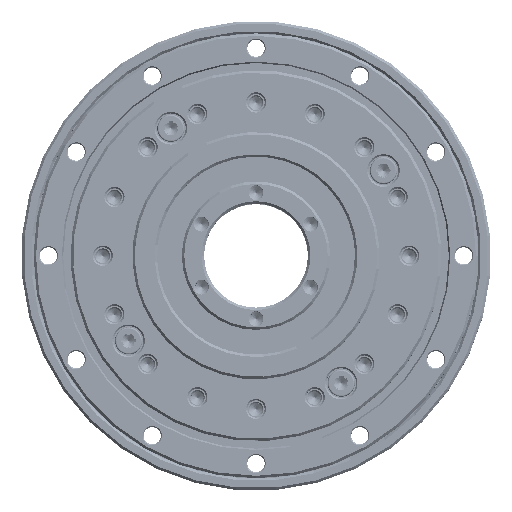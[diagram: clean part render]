
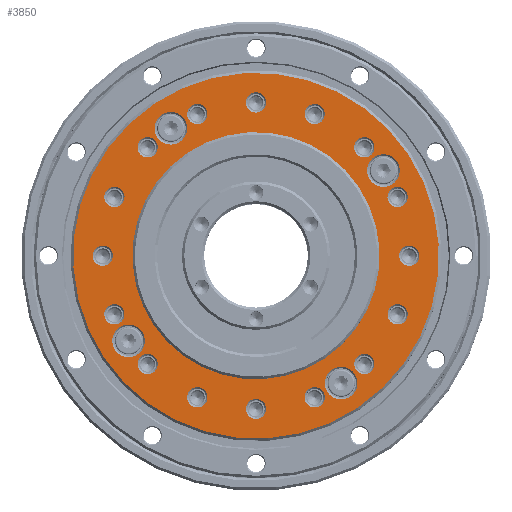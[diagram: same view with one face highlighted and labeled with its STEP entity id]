
A CAD part, top view. The second image highlights one B-rep face of the part: STEP entity #3850.
In plain terms, the highlighted planar face has unit normal (0, 0, 1).
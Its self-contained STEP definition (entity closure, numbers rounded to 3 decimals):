
#3850=ADVANCED_FACE('',(#5472,#5473,#5474,#5475,#5476,#5477,#5478,#5479,
#5480,#5481,#5482,#5483,#5484,#5485,#5486,#5487,#5488,#5489,#5490,#5491,
#5492,#5493),#4255,.T.);
#4255=PLANE('',#16259);
#5472=FACE_BOUND('',#7297,.T.);
#5473=FACE_BOUND('',#7298,.T.);
#5474=FACE_BOUND('',#7299,.T.);
#5475=FACE_BOUND('',#7300,.T.);
#5476=FACE_BOUND('',#7301,.T.);
#5477=FACE_BOUND('',#7302,.T.);
#5478=FACE_BOUND('',#7303,.T.);
#5479=FACE_BOUND('',#7304,.T.);
#5480=FACE_BOUND('',#7305,.T.);
#5481=FACE_BOUND('',#7306,.T.);
#5482=FACE_BOUND('',#7307,.T.);
#5483=FACE_BOUND('',#7308,.T.);
#5484=FACE_BOUND('',#7309,.T.);
#5485=FACE_BOUND('',#7310,.T.);
#5486=FACE_BOUND('',#7311,.T.);
#5487=FACE_BOUND('',#7312,.T.);
#5488=FACE_BOUND('',#7313,.T.);
#5489=FACE_BOUND('',#7314,.T.);
#5490=FACE_BOUND('',#7315,.T.);
#5491=FACE_BOUND('',#7316,.T.);
#5492=FACE_BOUND('',#7317,.T.);
#5493=FACE_BOUND('',#7318,.T.);
#7297=EDGE_LOOP('',(#10163));
#7298=EDGE_LOOP('',(#10164));
#7299=EDGE_LOOP('',(#10165));
#7300=EDGE_LOOP('',(#10166));
#7301=EDGE_LOOP('',(#10167));
#7302=EDGE_LOOP('',(#10168));
#7303=EDGE_LOOP('',(#10169));
#7304=EDGE_LOOP('',(#10170));
#7305=EDGE_LOOP('',(#10171));
#7306=EDGE_LOOP('',(#10172));
#7307=EDGE_LOOP('',(#10173));
#7308=EDGE_LOOP('',(#10174));
#7309=EDGE_LOOP('',(#10175));
#7310=EDGE_LOOP('',(#10176));
#7311=EDGE_LOOP('',(#10177));
#7312=EDGE_LOOP('',(#10178));
#7313=EDGE_LOOP('',(#10179));
#7314=EDGE_LOOP('',(#10180));
#7315=EDGE_LOOP('',(#10181));
#7316=EDGE_LOOP('',(#10182));
#7317=EDGE_LOOP('',(#10183));
#7318=EDGE_LOOP('',(#10184));
#10163=ORIENTED_EDGE('',*,*,#13299,.T.);
#10164=ORIENTED_EDGE('',*,*,#13300,.T.);
#10165=ORIENTED_EDGE('',*,*,#13301,.T.);
#10166=ORIENTED_EDGE('',*,*,#13302,.T.);
#10167=ORIENTED_EDGE('',*,*,#13303,.T.);
#10168=ORIENTED_EDGE('',*,*,#13304,.T.);
#10169=ORIENTED_EDGE('',*,*,#13305,.T.);
#10170=ORIENTED_EDGE('',*,*,#13306,.T.);
#10171=ORIENTED_EDGE('',*,*,#13307,.T.);
#10172=ORIENTED_EDGE('',*,*,#13308,.T.);
#10173=ORIENTED_EDGE('',*,*,#13309,.T.);
#10174=ORIENTED_EDGE('',*,*,#13310,.T.);
#10175=ORIENTED_EDGE('',*,*,#13311,.T.);
#10176=ORIENTED_EDGE('',*,*,#13312,.T.);
#10177=ORIENTED_EDGE('',*,*,#13313,.T.);
#10178=ORIENTED_EDGE('',*,*,#13314,.T.);
#10179=ORIENTED_EDGE('',*,*,#13315,.T.);
#10180=ORIENTED_EDGE('',*,*,#13316,.T.);
#10181=ORIENTED_EDGE('',*,*,#13317,.T.);
#10182=ORIENTED_EDGE('',*,*,#13318,.T.);
#10183=ORIENTED_EDGE('',*,*,#13319,.T.);
#10184=ORIENTED_EDGE('',*,*,#13320,.F.);
#11829=VERTEX_POINT('',#66681);
#11830=VERTEX_POINT('',#66683);
#11831=VERTEX_POINT('',#66685);
#11832=VERTEX_POINT('',#66687);
#11833=VERTEX_POINT('',#66689);
#11834=VERTEX_POINT('',#66691);
#11835=VERTEX_POINT('',#66693);
#11836=VERTEX_POINT('',#66695);
#11837=VERTEX_POINT('',#66697);
#11838=VERTEX_POINT('',#66699);
#11839=VERTEX_POINT('',#66701);
#11840=VERTEX_POINT('',#66703);
#11841=VERTEX_POINT('',#66705);
#11842=VERTEX_POINT('',#66707);
#11843=VERTEX_POINT('',#66709);
#11844=VERTEX_POINT('',#66711);
#11845=VERTEX_POINT('',#66713);
#11846=VERTEX_POINT('',#66715);
#11847=VERTEX_POINT('',#66717);
#11848=VERTEX_POINT('',#66719);
#11849=VERTEX_POINT('',#66721);
#11850=VERTEX_POINT('',#66723);
#13299=EDGE_CURVE('',#11829,#11829,#14432,.T.);
#13300=EDGE_CURVE('',#11830,#11830,#14433,.T.);
#13301=EDGE_CURVE('',#11831,#11831,#14434,.T.);
#13302=EDGE_CURVE('',#11832,#11832,#14435,.T.);
#13303=EDGE_CURVE('',#11833,#11833,#14436,.T.);
#13304=EDGE_CURVE('',#11834,#11834,#14437,.T.);
#13305=EDGE_CURVE('',#11835,#11835,#14438,.T.);
#13306=EDGE_CURVE('',#11836,#11836,#14439,.T.);
#13307=EDGE_CURVE('',#11837,#11837,#14440,.T.);
#13308=EDGE_CURVE('',#11838,#11838,#14441,.T.);
#13309=EDGE_CURVE('',#11839,#11839,#14442,.T.);
#13310=EDGE_CURVE('',#11840,#11840,#14443,.T.);
#13311=EDGE_CURVE('',#11841,#11841,#14444,.T.);
#13312=EDGE_CURVE('',#11842,#11842,#14445,.T.);
#13313=EDGE_CURVE('',#11843,#11843,#14446,.T.);
#13314=EDGE_CURVE('',#11844,#11844,#14447,.T.);
#13315=EDGE_CURVE('',#11845,#11845,#14448,.T.);
#13316=EDGE_CURVE('',#11846,#11846,#14449,.T.);
#13317=EDGE_CURVE('',#11847,#11847,#14450,.T.);
#13318=EDGE_CURVE('',#11848,#11848,#14451,.T.);
#13319=EDGE_CURVE('',#11849,#11849,#14452,.T.);
#13320=EDGE_CURVE('',#11850,#11850,#14453,.T.);
#14432=CIRCLE('',#16237,2.05);
#14433=CIRCLE('',#16238,2.05);
#14434=CIRCLE('',#16239,2.05);
#14435=CIRCLE('',#16240,2.05);
#14436=CIRCLE('',#16241,2.05);
#14437=CIRCLE('',#16242,2.05);
#14438=CIRCLE('',#16243,2.05);
#14439=CIRCLE('',#16244,2.05);
#14440=CIRCLE('',#16245,2.05);
#14441=CIRCLE('',#16246,2.05);
#14442=CIRCLE('',#16247,2.05);
#14443=CIRCLE('',#16248,2.05);
#14444=CIRCLE('',#16249,2.05);
#14445=CIRCLE('',#16250,2.05);
#14446=CIRCLE('',#16251,2.05);
#14447=CIRCLE('',#16252,2.05);
#14448=CIRCLE('',#16253,3.3);
#14449=CIRCLE('',#16254,3.3);
#14450=CIRCLE('',#16255,3.3);
#14451=CIRCLE('',#16256,3.3);
#14452=CIRCLE('',#16257,37.);
#14453=CIRCLE('',#16258,25.);
#16237=AXIS2_PLACEMENT_3D('',#66680,#20056,#20057);
#16238=AXIS2_PLACEMENT_3D('',#66682,#20058,#20059);
#16239=AXIS2_PLACEMENT_3D('',#66684,#20060,#20061);
#16240=AXIS2_PLACEMENT_3D('',#66686,#20062,#20063);
#16241=AXIS2_PLACEMENT_3D('',#66688,#20064,#20065);
#16242=AXIS2_PLACEMENT_3D('',#66690,#20066,#20067);
#16243=AXIS2_PLACEMENT_3D('',#66692,#20068,#20069);
#16244=AXIS2_PLACEMENT_3D('',#66694,#20070,#20071);
#16245=AXIS2_PLACEMENT_3D('',#66696,#20072,#20073);
#16246=AXIS2_PLACEMENT_3D('',#66698,#20074,#20075);
#16247=AXIS2_PLACEMENT_3D('',#66700,#20076,#20077);
#16248=AXIS2_PLACEMENT_3D('',#66702,#20078,#20079);
#16249=AXIS2_PLACEMENT_3D('',#66704,#20080,#20081);
#16250=AXIS2_PLACEMENT_3D('',#66706,#20082,#20083);
#16251=AXIS2_PLACEMENT_3D('',#66708,#20084,#20085);
#16252=AXIS2_PLACEMENT_3D('',#66710,#20086,#20087);
#16253=AXIS2_PLACEMENT_3D('',#66712,#20088,#20089);
#16254=AXIS2_PLACEMENT_3D('',#66714,#20090,#20091);
#16255=AXIS2_PLACEMENT_3D('',#66716,#20092,#20093);
#16256=AXIS2_PLACEMENT_3D('',#66718,#20094,#20095);
#16257=AXIS2_PLACEMENT_3D('',#66720,#20096,#20097);
#16258=AXIS2_PLACEMENT_3D('',#66722,#20098,#20099);
#16259=AXIS2_PLACEMENT_3D('',#66724,#20100,#20101);
#20056=DIRECTION('',(0.,0.,-1.));
#20057=DIRECTION('',(1.,0.,0.));
#20058=DIRECTION('',(0.,0.,-1.));
#20059=DIRECTION('',(1.,0.,0.));
#20060=DIRECTION('',(0.,0.,-1.));
#20061=DIRECTION('',(1.,0.,0.));
#20062=DIRECTION('',(0.,0.,-1.));
#20063=DIRECTION('',(1.,0.,0.));
#20064=DIRECTION('',(0.,0.,-1.));
#20065=DIRECTION('',(1.,0.,0.));
#20066=DIRECTION('',(0.,0.,-1.));
#20067=DIRECTION('',(1.,0.,0.));
#20068=DIRECTION('',(0.,0.,-1.));
#20069=DIRECTION('',(1.,0.,0.));
#20070=DIRECTION('',(0.,0.,-1.));
#20071=DIRECTION('',(1.,0.,0.));
#20072=DIRECTION('',(0.,0.,-1.));
#20073=DIRECTION('',(1.,0.,0.));
#20074=DIRECTION('',(0.,0.,-1.));
#20075=DIRECTION('',(1.,0.,0.));
#20076=DIRECTION('',(0.,0.,-1.));
#20077=DIRECTION('',(1.,0.,0.));
#20078=DIRECTION('',(0.,0.,-1.));
#20079=DIRECTION('',(1.,0.,0.));
#20080=DIRECTION('',(0.,0.,-1.));
#20081=DIRECTION('',(1.,0.,0.));
#20082=DIRECTION('',(0.,0.,-1.));
#20083=DIRECTION('',(1.,0.,0.));
#20084=DIRECTION('',(0.,0.,-1.));
#20085=DIRECTION('',(1.,0.,0.));
#20086=DIRECTION('',(0.,0.,-1.));
#20087=DIRECTION('',(1.,0.,0.));
#20088=DIRECTION('',(0.,0.,-1.));
#20089=DIRECTION('',(1.,0.,0.));
#20090=DIRECTION('',(0.,0.,-1.));
#20091=DIRECTION('',(1.,0.,0.));
#20092=DIRECTION('',(0.,0.,-1.));
#20093=DIRECTION('',(1.,0.,0.));
#20094=DIRECTION('',(0.,0.,-1.));
#20095=DIRECTION('',(1.,0.,0.));
#20096=DIRECTION('',(0.,0.,1.));
#20097=DIRECTION('',(1.,0.,0.));
#20098=DIRECTION('',(0.,0.,1.));
#20099=DIRECTION('',(1.,0.,0.));
#20100=DIRECTION('',(0.,0.,1.));
#20101=DIRECTION('',(1.,0.,0.));
#66680=CARTESIAN_POINT('',(6.048,-30.404,9.));
#66681=CARTESIAN_POINT('',(8.098,-30.404,9.));
#66682=CARTESIAN_POINT('',(17.223,-25.776,9.));
#66683=CARTESIAN_POINT('',(19.273,-25.776,9.));
#66684=CARTESIAN_POINT('',(25.776,-17.223,9.));
#66685=CARTESIAN_POINT('',(27.826,-17.223,9.));
#66686=CARTESIAN_POINT('',(30.404,-6.048,9.));
#66687=CARTESIAN_POINT('',(32.454,-6.048,9.));
#66688=CARTESIAN_POINT('',(30.404,6.048,9.));
#66689=CARTESIAN_POINT('',(32.454,6.048,9.));
#66690=CARTESIAN_POINT('',(25.776,17.223,9.));
#66691=CARTESIAN_POINT('',(27.826,17.223,9.));
#66692=CARTESIAN_POINT('',(17.223,25.776,9.));
#66693=CARTESIAN_POINT('',(19.273,25.776,9.));
#66694=CARTESIAN_POINT('',(6.048,30.404,9.));
#66695=CARTESIAN_POINT('',(8.098,30.404,9.));
#66696=CARTESIAN_POINT('',(-6.048,30.404,9.));
#66697=CARTESIAN_POINT('',(-3.998,30.404,9.));
#66698=CARTESIAN_POINT('',(-17.223,25.776,9.));
#66699=CARTESIAN_POINT('',(-15.173,25.776,9.));
#66700=CARTESIAN_POINT('',(-25.776,17.223,9.));
#66701=CARTESIAN_POINT('',(-23.726,17.223,9.));
#66702=CARTESIAN_POINT('',(-30.404,6.048,9.));
#66703=CARTESIAN_POINT('',(-28.354,6.048,9.));
#66704=CARTESIAN_POINT('',(-30.404,-6.048,9.));
#66705=CARTESIAN_POINT('',(-28.354,-6.048,9.));
#66706=CARTESIAN_POINT('',(-25.776,-17.223,9.));
#66707=CARTESIAN_POINT('',(-23.726,-17.223,9.));
#66708=CARTESIAN_POINT('',(-17.223,-25.776,9.));
#66709=CARTESIAN_POINT('',(-15.173,-25.776,9.));
#66710=CARTESIAN_POINT('',(-6.048,-30.404,9.));
#66711=CARTESIAN_POINT('',(-3.998,-30.404,9.));
#66712=CARTESIAN_POINT('',(0.,31.,9.));
#66713=CARTESIAN_POINT('',(3.3,31.,9.));
#66714=CARTESIAN_POINT('',(31.,0.,9.));
#66715=CARTESIAN_POINT('',(34.3,0.,9.));
#66716=CARTESIAN_POINT('',(0.,-31.,9.));
#66717=CARTESIAN_POINT('',(3.3,-31.,9.));
#66718=CARTESIAN_POINT('',(-31.,0.,9.));
#66719=CARTESIAN_POINT('',(-27.7,0.,9.));
#66720=CARTESIAN_POINT('',(0.,0.,9.));
#66721=CARTESIAN_POINT('',(37.,0.,9.));
#66722=CARTESIAN_POINT('',(0.,0.,9.));
#66723=CARTESIAN_POINT('',(25.,0.,9.));
#66724=CARTESIAN_POINT('',(15.5,0.,9.));
